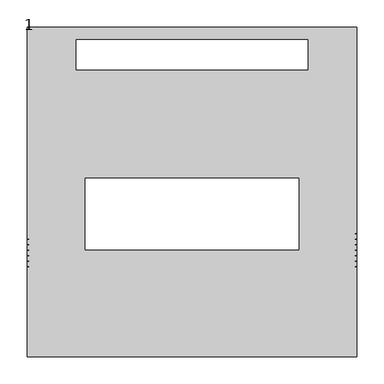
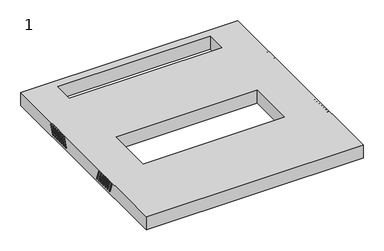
"""IFC4 building model written with IfcOpenShell, lengths in millimetres: proxy geometry, 1."""

from ifc_helpers import new_model, si_unit, frame, origin, place, context, project, spatial, polyline, circle_curve, source, transform, mapped, element, save
from ifc_brep_helpers import plane_surface, revolved_surface, advanced_brep


def proxy_1_868d94a2(model_context):
    return source(origin(), model_context, "Body", "AdvancedBrep", [
        advanced_brep(
        [(298.0, -135.8, 479.7479679), (298.0, -126.9074763, 455.3159597), (298.0, -123.1487058, 456.6840403), (298.0, -132.0412295, 481.1160484), (298.0, -125.8, 479.7479679), (298.0, -116.9074763, 455.3159597), (298.0, -113.1487058, 456.6840403), (298.0, -122.0412295, 481.1160484), (298.0, -115.8, 479.7479679), (298.0, -106.9074763, 455.3159597), (298.0, -103.1487058, 456.6840403), (298.0, -112.0412295, 481.1160484), (298.0, -105.8, 479.7479679), (298.0, -96.9074763, 455.3159597), (298.0, -93.1487058, 456.6840403), (298.0, -102.0412295, 481.1160484), (298.0, -95.8, 479.7479679), (298.0, -86.9074763, 455.3159597), (298.0, -83.1487058, 456.6840403), (298.0, -92.0412295, 481.1160484), (298.0, -85.8, 479.7479679), (298.0, -76.9074763, 455.3159597), (298.0, -73.1487058, 456.6840403), (298.0, -82.0412295, 481.1160484), (298.0, -75.8, 479.7479679), (298.0, -66.9074763, 455.3159597), (298.0, -63.1487058, 456.6840403), (298.0, -72.0412295, 481.1160484), (300.0, -132.0412295, 481.1160484), (300.0, -135.8, 479.7479679), (300.0, -123.1487058, 456.6840403), (300.0, -126.9074763, 455.3159597), (300.0, -122.0412295, 481.1160484), (300.0, -125.8, 479.7479679), (300.0, -113.1487058, 456.6840403), (300.0, -116.9074763, 455.3159597), (300.0, -112.0412295, 481.1160484), (300.0, -115.8, 479.7479679), (300.0, -103.1487058, 456.6840403), (300.0, -106.9074763, 455.3159597), (300.0, -102.0412295, 481.1160484), (300.0, -105.8, 479.7479679), (300.0, -93.1487058, 456.6840403), (300.0, -96.9074763, 455.3159597), (300.0, -92.0412295, 481.1160484), (300.0, -95.8, 479.7479679), (300.0, -83.1487058, 456.6840403), (300.0, -86.9074763, 455.3159597), (300.0, -82.0412295, 481.1160484), (300.0, -85.8, 479.7479679), (300.0, -73.1487058, 456.6840403), (300.0, -76.9074763, 455.3159597), (300.0, -72.0412295, 481.1160484), (300.0, -75.8, 479.7479679), (300.0, -63.1487058, 456.6840403), (300.0, -66.9074763, 455.3159597), (300.0, 300.0, 448.0), (300.0, -300.0, 448.0), (-300.0, -300.0, 448.0), (-300.0, 300.0, 448.0), (-211.0, 222.5, 448.0), (211.0, 222.5, 448.0), (211.0, 277.5, 448.0), (-211.0, 277.5, 448.0), (195.0, 25.0, 448.0), (-195.0, 25.0, 448.0), (-195.0, -105.0, 448.0), (195.0, -105.0, 448.0), (300.0, 300.0, 486.0), (-300.0, 300.0, 486.0), (-300.0, -300.0, 486.0), (300.0, -300.0, 486.0), (-211.0, 222.5, 486.0), (-211.0, 277.5, 486.0), (211.0, 277.5, 486.0), (211.0, 222.5, 486.0), (195.0, 25.0, 486.0), (195.0, -105.0, 486.0), (-195.0, -105.0, 486.0), (-195.0, 25.0, 486.0), (-300.0, -66.9074763, 455.3159597), (-300.0, -63.1487058, 456.6840403), (-300.0, -72.0412295, 481.1160484), (-300.0, -75.8, 479.7479679), (-300.0, -76.9074763, 455.3159597), (-300.0, -73.1487058, 456.6840403), (-300.0, -82.0412295, 481.1160484), (-300.0, -85.8, 479.7479679), (-300.0, -86.9074763, 455.3159597), (-300.0, -83.1487058, 456.6840403), (-300.0, -92.0412295, 481.1160484), (-300.0, -95.8, 479.7479679), (-300.0, -96.9074763, 455.3159597), (-300.0, -93.1487058, 456.6840403), (-300.0, -102.0412295, 481.1160484), (-300.0, -105.8, 479.7479679), (-300.0, -106.9074763, 455.3159597), (-300.0, -103.1487058, 456.6840403), (-300.0, -112.0412295, 481.1160484), (-300.0, -115.8, 479.7479679), (-300.0, -116.9074763, 455.3159597), (-300.0, -113.1487058, 456.6840403), (-300.0, -122.0412295, 481.1160484), (-300.0, -125.8, 479.7479679), (-300.0, -126.9074763, 455.3159597), (-300.0, -123.1487058, 456.6840403), (-300.0, -132.0412295, 481.1160484), (-300.0, -135.8, 479.7479679), (-300.0, 96.0, 479.7479679), (-300.0, 92.2412295, 481.1160484), (-300.0, 83.3487058, 456.6840403), (-300.0, 87.1074763, 455.3159597), (-300.0, 106.0, 479.7479679), (-300.0, 102.2412295, 481.1160484), (-300.0, 93.3487058, 456.6840403), (-300.0, 97.1074763, 455.3159597), (-300.0, 116.0, 479.7479679), (-300.0, 112.2412295, 481.1160484), (-300.0, 103.3487058, 456.6840403), (-300.0, 107.1074763, 455.3159597), (-300.0, 126.0, 479.7479679), (-300.0, 122.2412295, 481.1160484), (-300.0, 113.3487058, 456.6840403), (-300.0, 117.1074763, 455.3159597), (-300.0, 136.0, 479.7479679), (-300.0, 132.2412295, 481.1160484), (-300.0, 123.3487058, 456.6840403), (-300.0, 127.1074763, 455.3159597), (-300.0, 146.0, 479.7479679), (-300.0, 142.2412295, 481.1160484), (-300.0, 133.3487058, 456.6840403), (-300.0, 137.1074763, 455.3159597), (-300.0, 156.0, 479.7479679), (-300.0, 152.2412295, 481.1160484), (-300.0, 143.3487058, 456.6840403), (-300.0, 147.1074763, 455.3159597), (300.0, 152.2412295, 481.1160484), (300.0, 156.0, 479.7479679), (300.0, 147.1074763, 455.3159597), (300.0, 143.3487058, 456.6840403), (300.0, 142.2412295, 481.1160484), (300.0, 146.0, 479.7479679), (300.0, 137.1074763, 455.3159597), (300.0, 133.3487058, 456.6840403), (300.0, 132.2412295, 481.1160484), (300.0, 136.0, 479.7479679), (300.0, 127.1074763, 455.3159597), (300.0, 123.3487058, 456.6840403), (300.0, 122.2412295, 481.1160484), (300.0, 126.0, 479.7479679), (300.0, 117.1074763, 455.3159597), (300.0, 113.3487058, 456.6840403), (300.0, 112.2412295, 481.1160484), (300.0, 116.0, 479.7479679), (300.0, 107.1074763, 455.3159597), (300.0, 103.3487058, 456.6840403), (300.0, 102.2412295, 481.1160484), (300.0, 106.0, 479.7479679), (300.0, 97.1074763, 455.3159597), (300.0, 93.3487058, 456.6840403), (300.0, 92.2412295, 481.1160484), (300.0, 96.0, 479.7479679), (300.0, 87.1074763, 455.3159597), (300.0, 83.3487058, 456.6840403), (298.0, 156.0, 479.7479679), (298.0, 152.2412295, 481.1160484), (298.0, 143.3487058, 456.6840403), (298.0, 147.1074763, 455.3159597), (298.0, 146.0, 479.7479679), (298.0, 142.2412295, 481.1160484), (298.0, 133.3487058, 456.6840403), (298.0, 137.1074763, 455.3159597), (298.0, 136.0, 479.7479679), (298.0, 132.2412295, 481.1160484), (298.0, 123.3487058, 456.6840403), (298.0, 127.1074763, 455.3159597), (298.0, 126.0, 479.7479679), (298.0, 122.2412295, 481.1160484), (298.0, 113.3487058, 456.6840403), (298.0, 117.1074763, 455.3159597), (298.0, 116.0, 479.7479679), (298.0, 112.2412295, 481.1160484), (298.0, 103.3487058, 456.6840403), (298.0, 107.1074763, 455.3159597), (298.0, 106.0, 479.7479679), (298.0, 102.2412295, 481.1160484), (298.0, 93.3487058, 456.6840403), (298.0, 97.1074763, 455.3159597), (298.0, 96.0, 479.7479679), (298.0, 92.2412295, 481.1160484), (298.0, 83.3487058, 456.6840403), (298.0, 87.1074763, 455.3159597), (-298.0, -63.1487058, 456.6840403), (-298.0, -66.9074763, 455.3159597), (-298.0, -75.8, 479.7479679), (-298.0, -72.0412295, 481.1160484), (-298.0, -73.1487058, 456.6840403), (-298.0, -76.9074763, 455.3159597), (-298.0, -85.8, 479.7479679), (-298.0, -82.0412295, 481.1160484), (-298.0, -83.1487058, 456.6840403), (-298.0, -86.9074763, 455.3159597), (-298.0, -95.8, 479.7479679), (-298.0, -92.0412295, 481.1160484), (-298.0, -93.1487058, 456.6840403), (-298.0, -96.9074763, 455.3159597), (-298.0, -105.8, 479.7479679), (-298.0, -102.0412295, 481.1160484), (-298.0, -103.1487058, 456.6840403), (-298.0, -106.9074763, 455.3159597), (-298.0, -115.8, 479.7479679), (-298.0, -112.0412295, 481.1160484), (-298.0, -113.1487058, 456.6840403), (-298.0, -116.9074763, 455.3159597), (-298.0, -125.8, 479.7479679), (-298.0, -122.0412295, 481.1160484), (-298.0, -123.1487058, 456.6840403), (-298.0, -126.9074763, 455.3159597), (-298.0, -135.8, 479.7479679), (-298.0, -132.0412295, 481.1160484), (-298.0, 92.2412295, 481.1160484), (-298.0, 96.0, 479.7479679), (-298.0, 87.1074763, 455.3159597), (-298.0, 83.3487058, 456.6840403), (-298.0, 102.2412295, 481.1160484), (-298.0, 106.0, 479.7479679), (-298.0, 97.1074763, 455.3159597), (-298.0, 93.3487058, 456.6840403), (-298.0, 112.2412295, 481.1160484), (-298.0, 116.0, 479.7479679), (-298.0, 107.1074763, 455.3159597), (-298.0, 103.3487058, 456.6840403), (-298.0, 122.2412295, 481.1160484), (-298.0, 126.0, 479.7479679), (-298.0, 117.1074763, 455.3159597), (-298.0, 113.3487058, 456.6840403), (-298.0, 132.2412295, 481.1160484), (-298.0, 136.0, 479.7479679), (-298.0, 127.1074763, 455.3159597), (-298.0, 123.3487058, 456.6840403), (-298.0, 142.2412295, 481.1160484), (-298.0, 146.0, 479.7479679), (-298.0, 137.1074763, 455.3159597), (-298.0, 133.3487058, 456.6840403), (-298.0, 152.2412295, 481.1160484), (-298.0, 156.0, 479.7479679), (-298.0, 147.1074763, 455.3159597), (-298.0, 143.3487058, 456.6840403)],
        [
            (0, 1),
            (1, 2, circle_curve(frame((298.0, -125.028091, 456.0), z_axis=(1.0, 0.0, 0.0), x_axis=(0.0, -1.0, 0.0)), 2.0)),
            (2, 3),
            (3, 0, circle_curve(frame((298.0, -133.9206148, 480.4320081), z_axis=(1.0, 0.0, 0.0), x_axis=(0.0, -1.0, 0.0)), 2.0)),
            (4, 5),
            (5, 6, circle_curve(frame((298.0, -115.028091, 456.0), z_axis=(1.0, 0.0, 0.0), x_axis=(0.0, -1.0, 0.0)), 2.0)),
            (6, 7),
            (7, 4, circle_curve(frame((298.0, -123.9206148, 480.4320081), z_axis=(1.0, 0.0, 0.0), x_axis=(0.0, -1.0, 0.0)), 2.0)),
            (8, 9),
            (9, 10, circle_curve(frame((298.0, -105.028091, 456.0), z_axis=(1.0, 0.0, 0.0), x_axis=(0.0, -1.0, 0.0)), 2.0)),
            (10, 11),
            (11, 8, circle_curve(frame((298.0, -113.9206148, 480.4320081), z_axis=(1.0, 0.0, 0.0), x_axis=(0.0, -1.0, 0.0)), 2.0)),
            (12, 13),
            (13, 14, circle_curve(frame((298.0, -95.028091, 456.0), z_axis=(1.0, 0.0, 0.0), x_axis=(0.0, -1.0, 0.0)), 2.0)),
            (14, 15),
            (15, 12, circle_curve(frame((298.0, -103.9206148, 480.4320081), z_axis=(1.0, 0.0, 0.0), x_axis=(0.0, -1.0, 0.0)), 2.0)),
            (16, 17),
            (17, 18, circle_curve(frame((298.0, -85.028091, 456.0), z_axis=(1.0, 0.0, 0.0), x_axis=(0.0, -1.0, 0.0)), 2.0)),
            (18, 19),
            (19, 16, circle_curve(frame((298.0, -93.9206148, 480.4320081), z_axis=(1.0, 0.0, 0.0), x_axis=(0.0, -1.0, 0.0)), 2.0)),
            (20, 21),
            (21, 22, circle_curve(frame((298.0, -75.028091, 456.0), z_axis=(1.0, 0.0, 0.0), x_axis=(0.0, -1.0, 0.0)), 2.0)),
            (22, 23),
            (23, 20, circle_curve(frame((298.0, -83.9206148, 480.4320081), z_axis=(1.0, 0.0, 0.0), x_axis=(0.0, -1.0, 0.0)), 2.0)),
            (24, 25),
            (25, 26, circle_curve(frame((298.0, -65.028091, 456.0), z_axis=(1.0, 0.0, 0.0), x_axis=(0.0, -1.0, 0.0)), 2.0)),
            (26, 27),
            (27, 24, circle_curve(frame((298.0, -73.9206148, 480.4320081), z_axis=(1.0, 0.0, 0.0), x_axis=(0.0, -1.0, 0.0)), 2.0)),
            (3, 28),
            (28, 29, circle_curve(frame((300.0, -133.9206148, 480.4320081), z_axis=(1.0, 0.0, 0.0), x_axis=(0.0, -1.0, 0.0)), 2.0)),
            (29, 0),
            (2, 30),
            (30, 28),
            (1, 31),
            (31, 30, circle_curve(frame((300.0, -125.028091, 456.0), z_axis=(1.0, 0.0, 0.0), x_axis=(0.0, -1.0, 0.0)), 2.0)),
            (29, 31),
            (7, 32),
            (32, 33, circle_curve(frame((300.0, -123.9206148, 480.4320081), z_axis=(1.0, 0.0, 0.0), x_axis=(0.0, -1.0, 0.0)), 2.0)),
            (33, 4),
            (6, 34),
            (34, 32),
            (5, 35),
            (35, 34, circle_curve(frame((300.0, -115.028091, 456.0), z_axis=(1.0, 0.0, 0.0), x_axis=(0.0, -1.0, 0.0)), 2.0)),
            (33, 35),
            (11, 36),
            (36, 37, circle_curve(frame((300.0, -113.9206148, 480.4320081), z_axis=(1.0, 0.0, 0.0), x_axis=(0.0, -1.0, 0.0)), 2.0)),
            (37, 8),
            (10, 38),
            (38, 36),
            (9, 39),
            (39, 38, circle_curve(frame((300.0, -105.028091, 456.0), z_axis=(1.0, 0.0, 0.0), x_axis=(0.0, -1.0, 0.0)), 2.0)),
            (37, 39),
            (15, 40),
            (40, 41, circle_curve(frame((300.0, -103.9206148, 480.4320081), z_axis=(1.0, 0.0, 0.0), x_axis=(0.0, -1.0, 0.0)), 2.0)),
            (41, 12),
            (14, 42),
            (42, 40),
            (13, 43),
            (43, 42, circle_curve(frame((300.0, -95.028091, 456.0), z_axis=(1.0, 0.0, 0.0), x_axis=(0.0, -1.0, 0.0)), 2.0)),
            (41, 43),
            (19, 44),
            (44, 45, circle_curve(frame((300.0, -93.9206148, 480.4320081), z_axis=(1.0, 0.0, 0.0), x_axis=(0.0, -1.0, 0.0)), 2.0)),
            (45, 16),
            (18, 46),
            (46, 44),
            (17, 47),
            (47, 46, circle_curve(frame((300.0, -85.028091, 456.0), z_axis=(1.0, 0.0, 0.0), x_axis=(0.0, -1.0, 0.0)), 2.0)),
            (45, 47),
            (23, 48),
            (48, 49, circle_curve(frame((300.0, -83.9206148, 480.4320081), z_axis=(1.0, 0.0, 0.0), x_axis=(0.0, -1.0, 0.0)), 2.0)),
            (49, 20),
            (22, 50),
            (50, 48),
            (21, 51),
            (51, 50, circle_curve(frame((300.0, -75.028091, 456.0), z_axis=(1.0, 0.0, 0.0), x_axis=(0.0, -1.0, 0.0)), 2.0)),
            (49, 51),
            (27, 52),
            (52, 53, circle_curve(frame((300.0, -73.9206148, 480.4320081), z_axis=(1.0, 0.0, 0.0), x_axis=(0.0, -1.0, 0.0)), 2.0)),
            (53, 24),
            (26, 54),
            (54, 52),
            (25, 55),
            (55, 54, circle_curve(frame((300.0, -65.028091, 456.0), z_axis=(1.0, 0.0, 0.0), x_axis=(0.0, -1.0, 0.0)), 2.0)),
            (53, 55),
            (56, 57),
            (57, 58),
            (58, 59),
            (59, 56),
            (60, 61),
            (61, 62),
            (62, 63),
            (63, 60),
            (64, 65),
            (65, 66),
            (66, 67),
            (67, 64),
            (68, 69),
            (69, 70),
            (70, 71),
            (71, 68),
            (72, 73),
            (73, 74),
            (74, 75),
            (75, 72),
            (76, 77),
            (77, 78),
            (78, 79),
            (79, 76),
            (59, 69),
            (68, 56),
            (58, 70),
            (80, 81, circle_curve(frame((-300.0, -65.028091, 456.0), z_axis=(1.0, 0.0, 0.0), x_axis=(0.0, 1.0, 0.0)), 2.0)),
            (81, 82),
            (82, 83, circle_curve(frame((-300.0, -73.9206148, 480.4320081), z_axis=(1.0, 0.0, 0.0), x_axis=(0.0, 1.0, 0.0)), 2.0)),
            (83, 80),
            (84, 85, circle_curve(frame((-300.0, -75.028091, 456.0), z_axis=(1.0, 0.0, 0.0), x_axis=(0.0, 1.0, 0.0)), 2.0)),
            (85, 86),
            (86, 87, circle_curve(frame((-300.0, -83.9206148, 480.4320081), z_axis=(1.0, 0.0, 0.0), x_axis=(0.0, 1.0, 0.0)), 2.0)),
            (87, 84),
            (88, 89, circle_curve(frame((-300.0, -85.028091, 456.0), z_axis=(1.0, 0.0, 0.0), x_axis=(0.0, 1.0, 0.0)), 2.0)),
            (89, 90),
            (90, 91, circle_curve(frame((-300.0, -93.9206148, 480.4320081), z_axis=(1.0, 0.0, 0.0), x_axis=(0.0, 1.0, 0.0)), 2.0)),
            (91, 88),
            (92, 93, circle_curve(frame((-300.0, -95.028091, 456.0), z_axis=(1.0, 0.0, 0.0), x_axis=(0.0, 1.0, 0.0)), 2.0)),
            (93, 94),
            (94, 95, circle_curve(frame((-300.0, -103.9206148, 480.4320081), z_axis=(1.0, 0.0, 0.0), x_axis=(0.0, 1.0, 0.0)), 2.0)),
            (95, 92),
            (96, 97, circle_curve(frame((-300.0, -105.028091, 456.0), z_axis=(1.0, 0.0, 0.0), x_axis=(0.0, 1.0, 0.0)), 2.0)),
            (97, 98),
            (98, 99, circle_curve(frame((-300.0, -113.9206148, 480.4320081), z_axis=(1.0, 0.0, 0.0), x_axis=(0.0, 1.0, 0.0)), 2.0)),
            (99, 96),
            (100, 101, circle_curve(frame((-300.0, -115.028091, 456.0), z_axis=(1.0, 0.0, 0.0), x_axis=(0.0, 1.0, 0.0)), 2.0)),
            (101, 102),
            (102, 103, circle_curve(frame((-300.0, -123.9206148, 480.4320081), z_axis=(1.0, 0.0, 0.0), x_axis=(0.0, 1.0, 0.0)), 2.0)),
            (103, 100),
            (104, 105, circle_curve(frame((-300.0, -125.028091, 456.0), z_axis=(1.0, 0.0, 0.0), x_axis=(0.0, 1.0, 0.0)), 2.0)),
            (105, 106),
            (106, 107, circle_curve(frame((-300.0, -133.9206148, 480.4320081), z_axis=(1.0, 0.0, 0.0), x_axis=(0.0, 1.0, 0.0)), 2.0)),
            (107, 104),
            (108, 109, circle_curve(frame((-300.0, 94.1206148, 480.4320081), z_axis=(1.0, 0.0, 0.0), x_axis=(0.0, 1.0, 0.0)), 2.0)),
            (109, 110),
            (110, 111, circle_curve(frame((-300.0, 85.228091, 456.0), z_axis=(1.0, 0.0, 0.0), x_axis=(0.0, 1.0, 0.0)), 2.0)),
            (111, 108),
            (112, 113, circle_curve(frame((-300.0, 104.1206148, 480.4320081), z_axis=(1.0, 0.0, 0.0), x_axis=(0.0, 1.0, 0.0)), 2.0)),
            (113, 114),
            (114, 115, circle_curve(frame((-300.0, 95.228091, 456.0), z_axis=(1.0, 0.0, 0.0), x_axis=(0.0, 1.0, 0.0)), 2.0)),
            (115, 112),
            (116, 117, circle_curve(frame((-300.0, 114.1206148, 480.4320081), z_axis=(1.0, 0.0, 0.0), x_axis=(0.0, 1.0, 0.0)), 2.0)),
            (117, 118),
            (118, 119, circle_curve(frame((-300.0, 105.228091, 456.0), z_axis=(1.0, 0.0, 0.0), x_axis=(0.0, 1.0, 0.0)), 2.0)),
            (119, 116),
            (120, 121, circle_curve(frame((-300.0, 124.1206148, 480.4320081), z_axis=(1.0, 0.0, 0.0), x_axis=(0.0, 1.0, 0.0)), 2.0)),
            (121, 122),
            (122, 123, circle_curve(frame((-300.0, 115.228091, 456.0), z_axis=(1.0, 0.0, 0.0), x_axis=(0.0, 1.0, 0.0)), 2.0)),
            (123, 120),
            (124, 125, circle_curve(frame((-300.0, 134.1206148, 480.4320081), z_axis=(1.0, 0.0, 0.0), x_axis=(0.0, 1.0, 0.0)), 2.0)),
            (125, 126),
            (126, 127, circle_curve(frame((-300.0, 125.228091, 456.0), z_axis=(1.0, 0.0, 0.0), x_axis=(0.0, 1.0, 0.0)), 2.0)),
            (127, 124),
            (128, 129, circle_curve(frame((-300.0, 144.1206148, 480.4320081), z_axis=(1.0, 0.0, 0.0), x_axis=(0.0, 1.0, 0.0)), 2.0)),
            (129, 130),
            (130, 131, circle_curve(frame((-300.0, 135.228091, 456.0), z_axis=(1.0, 0.0, 0.0), x_axis=(0.0, 1.0, 0.0)), 2.0)),
            (131, 128),
            (132, 133, circle_curve(frame((-300.0, 154.1206148, 480.4320081), z_axis=(1.0, 0.0, 0.0), x_axis=(0.0, 1.0, 0.0)), 2.0)),
            (133, 134),
            (134, 135, circle_curve(frame((-300.0, 145.228091, 456.0), z_axis=(1.0, 0.0, 0.0), x_axis=(0.0, 1.0, 0.0)), 2.0)),
            (135, 132),
            (57, 71),
            (136, 137, circle_curve(frame((300.0, 154.1206148, 480.4320081), z_axis=(-1.0, 0.0, 0.0), x_axis=(0.0, 1.0, 0.0)), 2.0)),
            (137, 138),
            (138, 139, circle_curve(frame((300.0, 145.228091, 456.0), z_axis=(-1.0, 0.0, 0.0), x_axis=(0.0, 1.0, 0.0)), 2.0)),
            (139, 136),
            (140, 141, circle_curve(frame((300.0, 144.1206148, 480.4320081), z_axis=(-1.0, 0.0, 0.0), x_axis=(0.0, 1.0, 0.0)), 2.0)),
            (141, 142),
            (142, 143, circle_curve(frame((300.0, 135.228091, 456.0), z_axis=(-1.0, 0.0, 0.0), x_axis=(0.0, 1.0, 0.0)), 2.0)),
            (143, 140),
            (144, 145, circle_curve(frame((300.0, 134.1206148, 480.4320081), z_axis=(-1.0, 0.0, 0.0), x_axis=(0.0, 1.0, 0.0)), 2.0)),
            (145, 146),
            (146, 147, circle_curve(frame((300.0, 125.228091, 456.0), z_axis=(-1.0, 0.0, 0.0), x_axis=(0.0, 1.0, 0.0)), 2.0)),
            (147, 144),
            (148, 149, circle_curve(frame((300.0, 124.1206148, 480.4320081), z_axis=(-1.0, 0.0, 0.0), x_axis=(0.0, 1.0, 0.0)), 2.0)),
            (149, 150),
            (150, 151, circle_curve(frame((300.0, 115.228091, 456.0), z_axis=(-1.0, 0.0, 0.0), x_axis=(0.0, 1.0, 0.0)), 2.0)),
            (151, 148),
            (152, 153, circle_curve(frame((300.0, 114.1206148, 480.4320081), z_axis=(-1.0, 0.0, 0.0), x_axis=(0.0, 1.0, 0.0)), 2.0)),
            (153, 154),
            (154, 155, circle_curve(frame((300.0, 105.228091, 456.0), z_axis=(-1.0, 0.0, 0.0), x_axis=(0.0, 1.0, 0.0)), 2.0)),
            (155, 152),
            (156, 157, circle_curve(frame((300.0, 104.1206148, 480.4320081), z_axis=(-1.0, 0.0, 0.0), x_axis=(0.0, 1.0, 0.0)), 2.0)),
            (157, 158),
            (158, 159, circle_curve(frame((300.0, 95.228091, 456.0), z_axis=(-1.0, 0.0, 0.0), x_axis=(0.0, 1.0, 0.0)), 2.0)),
            (159, 156),
            (160, 161, circle_curve(frame((300.0, 94.1206148, 480.4320081), z_axis=(-1.0, 0.0, 0.0), x_axis=(0.0, 1.0, 0.0)), 2.0)),
            (161, 162),
            (162, 163, circle_curve(frame((300.0, 85.228091, 456.0), z_axis=(-1.0, 0.0, 0.0), x_axis=(0.0, 1.0, 0.0)), 2.0)),
            (163, 160),
            (63, 73),
            (72, 60),
            (62, 74),
            (61, 75),
            (67, 77),
            (76, 64),
            (66, 78),
            (65, 79),
            (164, 165, circle_curve(frame((298.0, 154.1206148, 480.4320081), z_axis=(1.0, 0.0, 0.0), x_axis=(0.0, 1.0, 0.0)), 2.0)),
            (165, 166),
            (166, 167, circle_curve(frame((298.0, 145.228091, 456.0), z_axis=(1.0, 0.0, 0.0), x_axis=(0.0, 1.0, 0.0)), 2.0)),
            (167, 164),
            (168, 169, circle_curve(frame((298.0, 144.1206148, 480.4320081), z_axis=(1.0, 0.0, 0.0), x_axis=(0.0, 1.0, 0.0)), 2.0)),
            (169, 170),
            (170, 171, circle_curve(frame((298.0, 135.228091, 456.0), z_axis=(1.0, 0.0, 0.0), x_axis=(0.0, 1.0, 0.0)), 2.0)),
            (171, 168),
            (172, 173, circle_curve(frame((298.0, 134.1206148, 480.4320081), z_axis=(1.0, 0.0, 0.0), x_axis=(0.0, 1.0, 0.0)), 2.0)),
            (173, 174),
            (174, 175, circle_curve(frame((298.0, 125.228091, 456.0), z_axis=(1.0, 0.0, 0.0), x_axis=(0.0, 1.0, 0.0)), 2.0)),
            (175, 172),
            (176, 177, circle_curve(frame((298.0, 124.1206148, 480.4320081), z_axis=(1.0, 0.0, 0.0), x_axis=(0.0, 1.0, 0.0)), 2.0)),
            (177, 178),
            (178, 179, circle_curve(frame((298.0, 115.228091, 456.0), z_axis=(1.0, 0.0, 0.0), x_axis=(0.0, 1.0, 0.0)), 2.0)),
            (179, 176),
            (180, 181, circle_curve(frame((298.0, 114.1206148, 480.4320081), z_axis=(1.0, 0.0, 0.0), x_axis=(0.0, 1.0, 0.0)), 2.0)),
            (181, 182),
            (182, 183, circle_curve(frame((298.0, 105.228091, 456.0), z_axis=(1.0, 0.0, 0.0), x_axis=(0.0, 1.0, 0.0)), 2.0)),
            (183, 180),
            (184, 185, circle_curve(frame((298.0, 104.1206148, 480.4320081), z_axis=(1.0, 0.0, 0.0), x_axis=(0.0, 1.0, 0.0)), 2.0)),
            (185, 186),
            (186, 187, circle_curve(frame((298.0, 95.228091, 456.0), z_axis=(1.0, 0.0, 0.0), x_axis=(0.0, 1.0, 0.0)), 2.0)),
            (187, 184),
            (188, 189, circle_curve(frame((298.0, 94.1206148, 480.4320081), z_axis=(1.0, 0.0, 0.0), x_axis=(0.0, 1.0, 0.0)), 2.0)),
            (189, 190),
            (190, 191, circle_curve(frame((298.0, 85.228091, 456.0), z_axis=(1.0, 0.0, 0.0), x_axis=(0.0, 1.0, 0.0)), 2.0)),
            (191, 188),
            (164, 137),
            (136, 165),
            (139, 166),
            (138, 167),
            (168, 141),
            (140, 169),
            (143, 170),
            (142, 171),
            (172, 145),
            (144, 173),
            (147, 174),
            (146, 175),
            (176, 149),
            (148, 177),
            (151, 178),
            (150, 179),
            (180, 153),
            (152, 181),
            (155, 182),
            (154, 183),
            (184, 157),
            (156, 185),
            (159, 186),
            (158, 187),
            (188, 161),
            (160, 189),
            (163, 190),
            (162, 191),
            (192, 193, circle_curve(frame((-298.0, -65.028091, 456.0), z_axis=(-1.0, 0.0, 0.0), x_axis=(0.0, 1.0, 0.0)), 2.0)),
            (193, 194),
            (194, 195, circle_curve(frame((-298.0, -73.9206148, 480.4320081), z_axis=(-1.0, 0.0, 0.0), x_axis=(0.0, 1.0, 0.0)), 2.0)),
            (195, 192),
            (196, 197, circle_curve(frame((-298.0, -75.028091, 456.0), z_axis=(-1.0, 0.0, 0.0), x_axis=(0.0, 1.0, 0.0)), 2.0)),
            (197, 198),
            (198, 199, circle_curve(frame((-298.0, -83.9206148, 480.4320081), z_axis=(-1.0, 0.0, 0.0), x_axis=(0.0, 1.0, 0.0)), 2.0)),
            (199, 196),
            (200, 201, circle_curve(frame((-298.0, -85.028091, 456.0), z_axis=(-1.0, 0.0, 0.0), x_axis=(0.0, 1.0, 0.0)), 2.0)),
            (201, 202),
            (202, 203, circle_curve(frame((-298.0, -93.9206148, 480.4320081), z_axis=(-1.0, 0.0, 0.0), x_axis=(0.0, 1.0, 0.0)), 2.0)),
            (203, 200),
            (204, 205, circle_curve(frame((-298.0, -95.028091, 456.0), z_axis=(-1.0, 0.0, 0.0), x_axis=(0.0, 1.0, 0.0)), 2.0)),
            (205, 206),
            (206, 207, circle_curve(frame((-298.0, -103.9206148, 480.4320081), z_axis=(-1.0, 0.0, 0.0), x_axis=(0.0, 1.0, 0.0)), 2.0)),
            (207, 204),
            (208, 209, circle_curve(frame((-298.0, -105.028091, 456.0), z_axis=(-1.0, 0.0, 0.0), x_axis=(0.0, 1.0, 0.0)), 2.0)),
            (209, 210),
            (210, 211, circle_curve(frame((-298.0, -113.9206148, 480.4320081), z_axis=(-1.0, 0.0, 0.0), x_axis=(0.0, 1.0, 0.0)), 2.0)),
            (211, 208),
            (212, 213, circle_curve(frame((-298.0, -115.028091, 456.0), z_axis=(-1.0, 0.0, 0.0), x_axis=(0.0, 1.0, 0.0)), 2.0)),
            (213, 214),
            (214, 215, circle_curve(frame((-298.0, -123.9206148, 480.4320081), z_axis=(-1.0, 0.0, 0.0), x_axis=(0.0, 1.0, 0.0)), 2.0)),
            (215, 212),
            (216, 217, circle_curve(frame((-298.0, -125.028091, 456.0), z_axis=(-1.0, 0.0, 0.0), x_axis=(0.0, 1.0, 0.0)), 2.0)),
            (217, 218),
            (218, 219, circle_curve(frame((-298.0, -133.9206148, 480.4320081), z_axis=(-1.0, 0.0, 0.0), x_axis=(0.0, 1.0, 0.0)), 2.0)),
            (219, 216),
            (192, 81),
            (80, 193),
            (83, 194),
            (82, 195),
            (196, 85),
            (84, 197),
            (87, 198),
            (86, 199),
            (200, 89),
            (88, 201),
            (91, 202),
            (90, 203),
            (204, 93),
            (92, 205),
            (95, 206),
            (94, 207),
            (208, 97),
            (96, 209),
            (99, 210),
            (98, 211),
            (212, 101),
            (100, 213),
            (103, 214),
            (102, 215),
            (216, 105),
            (104, 217),
            (107, 218),
            (106, 219),
            (220, 221, circle_curve(frame((-298.0, 94.1206148, 480.4320081), z_axis=(-1.0, 0.0, 0.0), x_axis=(0.0, 1.0, 0.0)), 2.0)),
            (221, 222),
            (222, 223, circle_curve(frame((-298.0, 85.228091, 456.0), z_axis=(-1.0, 0.0, 0.0), x_axis=(0.0, 1.0, 0.0)), 2.0)),
            (223, 220),
            (224, 225, circle_curve(frame((-298.0, 104.1206148, 480.4320081), z_axis=(-1.0, 0.0, 0.0), x_axis=(0.0, 1.0, 0.0)), 2.0)),
            (225, 226),
            (226, 227, circle_curve(frame((-298.0, 95.228091, 456.0), z_axis=(-1.0, 0.0, 0.0), x_axis=(0.0, 1.0, 0.0)), 2.0)),
            (227, 224),
            (228, 229, circle_curve(frame((-298.0, 114.1206148, 480.4320081), z_axis=(-1.0, 0.0, 0.0), x_axis=(0.0, 1.0, 0.0)), 2.0)),
            (229, 230),
            (230, 231, circle_curve(frame((-298.0, 105.228091, 456.0), z_axis=(-1.0, 0.0, 0.0), x_axis=(0.0, 1.0, 0.0)), 2.0)),
            (231, 228),
            (232, 233, circle_curve(frame((-298.0, 124.1206148, 480.4320081), z_axis=(-1.0, 0.0, 0.0), x_axis=(0.0, 1.0, 0.0)), 2.0)),
            (233, 234),
            (234, 235, circle_curve(frame((-298.0, 115.228091, 456.0), z_axis=(-1.0, 0.0, 0.0), x_axis=(0.0, 1.0, 0.0)), 2.0)),
            (235, 232),
            (236, 237, circle_curve(frame((-298.0, 134.1206148, 480.4320081), z_axis=(-1.0, 0.0, 0.0), x_axis=(0.0, 1.0, 0.0)), 2.0)),
            (237, 238),
            (238, 239, circle_curve(frame((-298.0, 125.228091, 456.0), z_axis=(-1.0, 0.0, 0.0), x_axis=(0.0, 1.0, 0.0)), 2.0)),
            (239, 236),
            (240, 241, circle_curve(frame((-298.0, 144.1206148, 480.4320081), z_axis=(-1.0, 0.0, 0.0), x_axis=(0.0, 1.0, 0.0)), 2.0)),
            (241, 242),
            (242, 243, circle_curve(frame((-298.0, 135.228091, 456.0), z_axis=(-1.0, 0.0, 0.0), x_axis=(0.0, 1.0, 0.0)), 2.0)),
            (243, 240),
            (244, 245, circle_curve(frame((-298.0, 154.1206148, 480.4320081), z_axis=(-1.0, 0.0, 0.0), x_axis=(0.0, 1.0, 0.0)), 2.0)),
            (245, 246),
            (246, 247, circle_curve(frame((-298.0, 145.228091, 456.0), z_axis=(-1.0, 0.0, 0.0), x_axis=(0.0, 1.0, 0.0)), 2.0)),
            (247, 244),
            (220, 109),
            (108, 221),
            (111, 222),
            (110, 223),
            (224, 113),
            (112, 225),
            (115, 226),
            (114, 227),
            (228, 117),
            (116, 229),
            (119, 230),
            (118, 231),
            (232, 121),
            (120, 233),
            (123, 234),
            (122, 235),
            (236, 125),
            (124, 237),
            (127, 238),
            (126, 239),
            (240, 129),
            (128, 241),
            (131, 242),
            (130, 243),
            (244, 133),
            (132, 245),
            (135, 246),
            (134, 247),
        ],
        [
            plane_surface(frame((298.0, -126.9074763, 455.3159597), z_axis=(1.0000000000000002, 0.0, 0.0), x_axis=(0.0, -0.3420201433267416, 0.939692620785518))),
            revolved_surface(polyline([(300.0, -135.9206148, 480.4320081), (298.0, -135.9206148, 480.4320081)]), (298.0, -133.9206148, 480.4320081), (1.0, 0.0, 0.0)),
            plane_surface(frame((300.0, -123.1487058, 456.6840403), z_axis=(0.0, -0.939692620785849, -0.34202014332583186), x_axis=(-1.0, 0.0, 0.0))),
            revolved_surface(polyline([(300.0, -127.028091, 456.0), (298.0, -127.028091, 456.0)]), (298.0, -125.028091, 456.0), (1.0, 0.0, 0.0)),
            plane_surface(frame((300.0, -135.8, 479.7479679), z_axis=(0.0, 0.939692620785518, 0.3420201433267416), x_axis=(-1.0, 0.0, 0.0))),
            revolved_surface(polyline([(300.0, -125.9206148, 480.4320081), (298.0, -125.9206148, 480.4320081)]), (300.0, -123.9206148, 480.4320081), (1.0, 0.0, 0.0)),
            plane_surface(frame((300.0, -113.1487058, 456.6840403), z_axis=(0.0, -0.9396926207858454, -0.3420201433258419), x_axis=(-1.0, 0.0, 0.0))),
            revolved_surface(polyline([(300.0, -117.028091, 456.0), (298.0, -117.028091, 456.0)]), (300.0, -115.028091, 456.0), (1.0, 0.0, 0.0)),
            plane_surface(frame((300.0, -125.8, 479.7479679), z_axis=(0.0, 0.9396926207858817, 0.3420201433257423), x_axis=(-1.0, 0.0, 0.0))),
            revolved_surface(polyline([(300.0, -115.9206148, 480.4320081), (298.0, -115.9206148, 480.4320081)]), (300.0, -113.9206148, 480.4320081), (1.0, 0.0, 0.0)),
            plane_surface(frame((300.0, -103.1487058, 456.6840403), z_axis=(0.0, -0.9396926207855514, -0.3420201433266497), x_axis=(-1.0, 0.0, 0.0))),
            revolved_surface(polyline([(300.0, -107.028091, 456.0), (298.0, -107.028091, 456.0)]), (300.0, -105.028091, 456.0), (1.0, 0.0, 0.0)),
            plane_surface(frame((300.0, -115.8, 479.7479679), z_axis=(0.0, 0.93969262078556, 0.34202014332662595), x_axis=(-1.0, 0.0, 0.0))),
            revolved_surface(polyline([(300.0, -105.9206148, 480.4320081), (298.0, -105.9206148, 480.4320081)]), (300.0, -103.9206148, 480.4320081), (1.0, 0.0, 0.0)),
            plane_surface(frame((300.0, -93.1487058, 456.6840403), z_axis=(0.0, -0.9396926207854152, -0.3420201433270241), x_axis=(-1.0, 0.0, 0.0))),
            revolved_surface(polyline([(300.0, -97.028091, 456.0), (298.0, -97.028091, 456.0)]), (300.0, -95.028091, 456.0), (1.0, 0.0, 0.0)),
            plane_surface(frame((300.0, -105.8, 479.7479679), z_axis=(0.0, 0.9396926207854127, 0.3420201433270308), x_axis=(-1.0, 0.0, 0.0))),
            revolved_surface(polyline([(300.0, -95.9206148, 480.4320081), (298.0, -95.9206148, 480.4320081)]), (300.0, -93.9206148, 480.4320081), (1.0, 0.0, 0.0)),
            plane_surface(frame((300.0, -83.1487058, 456.6840403), z_axis=(0.0, -0.9396926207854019, -0.3420201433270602), x_axis=(-1.0, 0.0, 0.0))),
            revolved_surface(polyline([(300.0, -87.028091, 456.0), (298.0, -87.028091, 456.0)]), (300.0, -85.028091, 456.0), (1.0, 0.0, 0.0)),
            plane_surface(frame((300.0, -95.8, 479.7479679), z_axis=(0.0, 0.9396926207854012, 0.3420201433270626), x_axis=(-1.0, 0.0, 0.0))),
            revolved_surface(polyline([(300.0, -85.9206148, 480.4320081), (298.0, -85.9206148, 480.4320081)]), (300.0, -83.9206148, 480.4320081), (1.0, 0.0, 0.0)),
            plane_surface(frame((300.0, -73.1487058, 456.6840403), z_axis=(0.0, -0.9396926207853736, -0.3420201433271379), x_axis=(-1.0, 0.0, 0.0))),
            revolved_surface(polyline([(300.0, -77.028091, 456.0), (298.0, -77.028091, 456.0)]), (300.0, -75.028091, 456.0), (1.0, 0.0, 0.0)),
            plane_surface(frame((300.0, -85.8, 479.7479679), z_axis=(0.0, 0.9396926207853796, 0.3420201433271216), x_axis=(-1.0, 0.0, 0.0))),
            revolved_surface(polyline([(300.0, -75.9206148, 480.4320081), (298.0, -75.9206148, 480.4320081)]), (300.0, -73.9206148, 480.4320081), (1.0, 0.0, 0.0)),
            plane_surface(frame((300.0, -63.1487058, 456.6840403), z_axis=(0.0, -0.9396926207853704, -0.3420201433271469), x_axis=(-1.0, 0.0, 0.0))),
            revolved_surface(polyline([(300.0, -67.028091, 456.0), (298.0, -67.028091, 456.0)]), (300.0, -65.028091, 456.0), (1.0, 0.0, 0.0)),
            plane_surface(frame((300.0, -75.8, 479.7479679), z_axis=(0.0, 0.9396926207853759, 0.3420201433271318), x_axis=(-1.0, 0.0, 0.0))),
            plane_surface(frame((-300.0, 300.0, 448.0), z_axis=(0.0, 0.0, -1.0), x_axis=(1.0, 0.0, 0.0))),
            plane_surface(frame((-300.0, 300.0, 486.0), z_axis=(0.0, 0.0, 1.0), x_axis=(-1.0, 0.0, 0.0))),
            plane_surface(frame((300.0, 300.0, 486.0), z_axis=(0.0, 1.0, 0.0), x_axis=(0.0, 0.0, -1.0))),
            plane_surface(frame((-300.0, 300.0, 486.0), z_axis=(-1.0, 0.0, 0.0), x_axis=(0.0, 0.0, -1.0))),
            plane_surface(frame((-300.0, -300.0, 486.0), z_axis=(0.0, -1.0, 0.0), x_axis=(0.0, 0.0, -1.0))),
            plane_surface(frame((300.0, -300.0, 486.0), z_axis=(1.0, 0.0, 0.0), x_axis=(0.0, 0.0, -1.0))),
            plane_surface(frame((-211.0, 222.5, 486.0), z_axis=(1.0, 0.0, 0.0), x_axis=(0.0, 0.0, -1.0))),
            plane_surface(frame((-211.0, 277.5, 486.0), z_axis=(0.0, -1.0, 0.0), x_axis=(0.0, 0.0, -1.0))),
            plane_surface(frame((211.0, 277.5, 486.0), z_axis=(-1.0, 0.0, 0.0), x_axis=(0.0, 0.0, -1.0))),
            plane_surface(frame((211.0, 222.5, 486.0), z_axis=(0.0, 1.0, 0.0), x_axis=(0.0, 0.0, -1.0))),
            plane_surface(frame((195.0, 25.0, 486.0), z_axis=(-1.0, 0.0, 0.0), x_axis=(0.0, 0.0, -1.0))),
            plane_surface(frame((195.0, -105.0, 486.0), z_axis=(0.0, 1.0, 0.0), x_axis=(0.0, 0.0, -1.0))),
            plane_surface(frame((-195.0, -105.0, 486.0), z_axis=(1.0, 0.0, 0.0), x_axis=(0.0, 0.0, -1.0))),
            plane_surface(frame((-195.0, 25.0, 486.0), z_axis=(0.0, -1.0, 0.0), x_axis=(0.0, 0.0, -1.0))),
            plane_surface(frame((298.0, 156.1206148, 480.4320081), z_axis=(1.0, 0.0, 0.0), x_axis=(0.0, 0.0, -1.0))),
            revolved_surface(polyline([(300.0, 156.1206148, 480.4320081), (298.0, 156.1206148, 480.4320081)]), (298.0, 154.1206148, 480.4320081), (1.0, 0.0, 0.0)),
            plane_surface(frame((300.0, 152.2412295, 481.1160484), z_axis=(0.0, 0.9396926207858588, -0.3420201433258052), x_axis=(-1.0, 0.0, 0.0))),
            revolved_surface(polyline([(300.0, 147.228091, 456.0), (298.0, 147.228091, 456.0)]), (298.0, 145.228091, 456.0), (1.0, 0.0, 0.0)),
            plane_surface(frame((300.0, 147.1074763, 455.3159597), z_axis=(0.0, -0.9396926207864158, 0.3420201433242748), x_axis=(-1.0, 0.0, 0.0))),
            revolved_surface(polyline([(300.0, 146.1206148, 480.4320081), (298.0, 146.1206148, 480.4320081)]), (300.0, 144.1206148, 480.4320081), (1.0, 0.0, 0.0)),
            plane_surface(frame((300.0, 142.2412295, 481.1160484), z_axis=(0.0, 0.9396926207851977, -0.3420201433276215), x_axis=(-1.0, 0.0, 0.0))),
            revolved_surface(polyline([(300.0, 137.228091, 456.0), (298.0, 137.228091, 456.0)]), (300.0, 135.228091, 456.0), (1.0, 0.0, 0.0)),
            plane_surface(frame((300.0, 137.1074763, 455.3159597), z_axis=(0.0, -0.9396926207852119, 0.34202014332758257), x_axis=(-1.0, 0.0, 0.0))),
            revolved_surface(polyline([(300.0, 136.1206148, 480.4320081), (298.0, 136.1206148, 480.4320081)]), (300.0, 134.1206148, 480.4320081), (1.0, 0.0, 0.0)),
            plane_surface(frame((300.0, 132.2412295, 481.1160484), z_axis=(0.0, 0.9396926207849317, -0.34202014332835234), x_axis=(-1.0, 0.0, 0.0))),
            revolved_surface(polyline([(300.0, 127.228091, 456.0), (298.0, 127.228091, 456.0)]), (300.0, 125.228091, 456.0), (1.0, 0.0, 0.0)),
            plane_surface(frame((300.0, 127.1074763, 455.3159597), z_axis=(0.0, -0.9396926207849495, 0.3420201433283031), x_axis=(-1.0, 0.0, 0.0))),
            revolved_surface(polyline([(300.0, 126.1206148, 480.4320081), (298.0, 126.1206148, 480.4320081)]), (300.0, 124.1206148, 480.4320081), (1.0, 0.0, 0.0)),
            plane_surface(frame((300.0, 122.2412295, 481.1160484), z_axis=(0.0, 0.9396926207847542, -0.34202014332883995), x_axis=(-1.0, 0.0, 0.0))),
            revolved_surface(polyline([(300.0, 117.228091, 456.0), (298.0, 117.228091, 456.0)]), (300.0, 115.228091, 456.0), (1.0, 0.0, 0.0)),
            plane_surface(frame((300.0, 117.1074763, 455.3159597), z_axis=(0.0, -0.9396926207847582, 0.342020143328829), x_axis=(-1.0, 0.0, 0.0))),
            revolved_surface(polyline([(300.0, 116.1206148, 480.4320081), (298.0, 116.1206148, 480.4320081)]), (300.0, 114.1206148, 480.4320081), (1.0, 0.0, 0.0)),
            plane_surface(frame((300.0, 112.2412295, 481.1160484), z_axis=(0.0, 0.9396926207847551, -0.34202014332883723), x_axis=(-1.0, 0.0, 0.0))),
            revolved_surface(polyline([(300.0, 107.228091, 456.0), (298.0, 107.228091, 456.0)]), (300.0, 105.228091, 456.0), (1.0, 0.0, 0.0)),
            plane_surface(frame((300.0, 107.1074763, 455.3159597), z_axis=(0.0, -0.9396926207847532, 0.34202014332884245), x_axis=(-1.0, 0.0, 0.0))),
            revolved_surface(polyline([(300.0, 106.1206148, 480.4320081), (298.0, 106.1206148, 480.4320081)]), (300.0, 104.1206148, 480.4320081), (1.0, 0.0, 0.0)),
            plane_surface(frame((300.0, 102.2412295, 481.1160484), z_axis=(0.0, 0.9396926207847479, -0.3420201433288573), x_axis=(-1.0, 0.0, 0.0))),
            revolved_surface(polyline([(300.0, 97.228091, 456.0), (298.0, 97.228091, 456.0)]), (300.0, 95.228091, 456.0), (1.0, 0.0, 0.0)),
            plane_surface(frame((300.0, 97.1074763, 455.3159597), z_axis=(0.0, -0.939692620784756, 0.342020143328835), x_axis=(-1.0, 0.0, 0.0))),
            revolved_surface(polyline([(300.0, 96.1206148, 480.4320081), (298.0, 96.1206148, 480.4320081)]), (300.0, 94.1206148, 480.4320081), (1.0, 0.0, 0.0)),
            plane_surface(frame((300.0, 92.2412295, 481.1160484), z_axis=(0.0, 0.9396926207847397, -0.3420201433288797), x_axis=(-1.0, 0.0, 0.0))),
            revolved_surface(polyline([(300.0, 87.228091, 456.0), (298.0, 87.228091, 456.0)]), (300.0, 85.228091, 456.0), (1.0, 0.0, 0.0)),
            plane_surface(frame((300.0, 87.1074763, 455.3159597), z_axis=(0.0, -0.9396926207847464, 0.3420201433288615), x_axis=(-1.0, 0.0, 0.0))),
            plane_surface(frame((-298.0, -72.0412295, 481.1160484), z_axis=(-1.0, 0.0, 0.0), x_axis=(0.0, -0.34202014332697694, 0.9396926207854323))),
            revolved_surface(polyline([(-298.0, -63.028091, 456.0), (-300.0, -63.028091, 456.0)]), (-300.0, -65.028091, 456.0), (1.0, 0.0, 0.0)),
            plane_surface(frame((-298.0, -75.8, 479.7479679), z_axis=(0.0, 0.9396926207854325, 0.3420201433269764), x_axis=(-1.0, 0.0, 0.0))),
            revolved_surface(polyline([(-298.0, -71.9206148, 480.4320081), (-300.0, -71.9206148, 480.4320081)]), (-300.0, -73.9206148, 480.4320081), (1.0, 0.0, 0.0)),
            plane_surface(frame((-298.0, -63.1487058, 456.6840403), z_axis=(0.0, -0.9396926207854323, -0.34202014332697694), x_axis=(-1.0, 0.0, 0.0))),
            revolved_surface(polyline([(-298.0, -73.028091, 456.0), (-300.0, -73.028091, 456.0)]), (-300.0, -75.028091, 456.0), (1.0, 0.0, 0.0)),
            plane_surface(frame((-298.0, -85.8, 479.7479679), z_axis=(0.0, 0.9396926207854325, 0.34202014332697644), x_axis=(-1.0, 0.0, 0.0))),
            revolved_surface(polyline([(-298.0, -81.9206148, 480.4320081), (-300.0, -81.9206148, 480.4320081)]), (-300.0, -83.9206148, 480.4320081), (1.0, 0.0, 0.0)),
            plane_surface(frame((-298.0, -73.1487058, 456.6840403), z_axis=(0.0, -0.9396926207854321, -0.34202014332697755), x_axis=(-1.0, 0.0, 0.0))),
            revolved_surface(polyline([(-298.0, -83.028091, 456.0), (-300.0, -83.028091, 456.0)]), (-300.0, -85.028091, 456.0), (1.0, 0.0, 0.0)),
            plane_surface(frame((-298.0, -95.8, 479.7479679), z_axis=(0.0, 0.9396926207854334, 0.34202014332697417), x_axis=(-1.0, 0.0, 0.0))),
            revolved_surface(polyline([(-298.0, -91.9206148, 480.4320081), (-300.0, -91.9206148, 480.4320081)]), (-300.0, -93.9206148, 480.4320081), (1.0, 0.0, 0.0)),
            plane_surface(frame((-298.0, -83.1487058, 456.6840403), z_axis=(0.0, -0.9396926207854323, -0.342020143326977), x_axis=(-1.0, 0.0, 0.0))),
            revolved_surface(polyline([(-298.0, -93.028091, 456.0), (-300.0, -93.028091, 456.0)]), (-300.0, -95.028091, 456.0), (1.0, 0.0, 0.0)),
            plane_surface(frame((-298.0, -105.8, 479.7479679), z_axis=(0.0, 0.9396926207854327, 0.34202014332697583), x_axis=(-1.0, 0.0, 0.0))),
            revolved_surface(polyline([(-298.0, -101.9206148, 480.4320081), (-300.0, -101.9206148, 480.4320081)]), (-300.0, -103.9206148, 480.4320081), (1.0, 0.0, 0.0)),
            plane_surface(frame((-298.0, -93.1487058, 456.6840403), z_axis=(0.0, -0.9396926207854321, -0.34202014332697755), x_axis=(-1.0, 0.0, 0.0))),
            revolved_surface(polyline([(-298.0, -103.028091, 456.0), (-300.0, -103.028091, 456.0)]), (-300.0, -105.028091, 456.0), (1.0, 0.0, 0.0)),
            plane_surface(frame((-298.0, -115.8, 479.7479679), z_axis=(0.0, 0.9396926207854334, 0.3420201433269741), x_axis=(-1.0, 0.0, 0.0))),
            revolved_surface(polyline([(-298.0, -111.9206148, 480.4320081), (-300.0, -111.9206148, 480.4320081)]), (-300.0, -113.9206148, 480.4320081), (1.0, 0.0, 0.0)),
            plane_surface(frame((-298.0, -103.1487058, 456.6840403), z_axis=(0.0, -0.9396926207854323, -0.34202014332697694), x_axis=(-1.0, 0.0, 0.0))),
            revolved_surface(polyline([(-298.0, -113.028091, 456.0), (-300.0, -113.028091, 456.0)]), (-300.0, -115.028091, 456.0), (1.0, 0.0, 0.0)),
            plane_surface(frame((-298.0, -125.8, 479.7479679), z_axis=(0.0, 0.9396926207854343, 0.3420201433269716), x_axis=(-1.0, 0.0, 0.0))),
            revolved_surface(polyline([(-298.0, -121.9206148, 480.4320081), (-300.0, -121.9206148, 480.4320081)]), (-300.0, -123.9206148, 480.4320081), (1.0, 0.0, 0.0)),
            plane_surface(frame((-298.0, -113.1487058, 456.6840403), z_axis=(0.0, -0.9396926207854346, -0.34202014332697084), x_axis=(-1.0, 0.0, 0.0))),
            revolved_surface(polyline([(-298.0, -123.028091, 456.0), (-300.0, -123.028091, 456.0)]), (-300.0, -125.028091, 456.0), (1.0, 0.0, 0.0)),
            plane_surface(frame((-298.0, -135.8, 479.7479679), z_axis=(0.0, 0.9396926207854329, 0.34202014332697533), x_axis=(-1.0, 0.0, 0.0))),
            revolved_surface(polyline([(-298.0, -131.9206148, 480.4320081), (-300.0, -131.9206148, 480.4320081)]), (-300.0, -133.9206148, 480.4320081), (1.0, 0.0, 0.0)),
            plane_surface(frame((-298.0, -123.1487058, 456.6840403), z_axis=(0.0, -0.9396926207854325, -0.34202014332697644), x_axis=(-1.0, 0.0, 0.0))),
            plane_surface(frame((-298.0, 83.3487058, 456.6840403), z_axis=(-1.0, 0.0, 0.0), x_axis=(0.0, -0.34202014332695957, -0.9396926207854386))),
            revolved_surface(polyline([(-298.0, 96.1206148, 480.4320081), (-300.0, 96.1206148, 480.4320081)]), (-300.0, 94.1206148, 480.4320081), (1.0, 0.0, 0.0)),
            plane_surface(frame((-298.0, 87.1074763, 455.3159597), z_axis=(0.0, -0.9396926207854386, 0.34202014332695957), x_axis=(-1.0, 0.0, 0.0))),
            revolved_surface(polyline([(-298.0, 87.228091, 456.0), (-300.0, 87.228091, 456.0)]), (-300.0, 85.228091, 456.0), (1.0, 0.0, 0.0)),
            plane_surface(frame((-298.0, 92.2412295, 481.1160484), z_axis=(0.0, 0.9396926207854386, -0.34202014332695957), x_axis=(-1.0, 0.0, 0.0))),
            revolved_surface(polyline([(-298.0, 106.1206148, 480.4320081), (-300.0, 106.1206148, 480.4320081)]), (-300.0, 104.1206148, 480.4320081), (1.0, 0.0, 0.0)),
            plane_surface(frame((-298.0, 97.1074763, 455.3159597), z_axis=(0.0, -0.9396926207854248, 0.3420201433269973), x_axis=(-1.0, 0.0, 0.0))),
            revolved_surface(polyline([(-298.0, 97.228091, 456.0), (-300.0, 97.228091, 456.0)]), (-300.0, 95.228091, 456.0), (1.0, 0.0, 0.0)),
            plane_surface(frame((-298.0, 102.2412295, 481.1160484), z_axis=(0.0, 0.9396926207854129, -0.34202014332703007), x_axis=(-1.0, 0.0, 0.0))),
            revolved_surface(polyline([(-298.0, 116.1206148, 480.4320081), (-300.0, 116.1206148, 480.4320081)]), (-300.0, 114.1206148, 480.4320081), (1.0, 0.0, 0.0)),
            plane_surface(frame((-298.0, 107.1074763, 455.3159597), z_axis=(0.0, -0.9396926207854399, 0.3420201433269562), x_axis=(-1.0, 0.0, 0.0))),
            revolved_surface(polyline([(-298.0, 107.228091, 456.0), (-300.0, 107.228091, 456.0)]), (-300.0, 105.228091, 456.0), (1.0, 0.0, 0.0)),
            plane_surface(frame((-298.0, 112.2412295, 481.1160484), z_axis=(0.0, 0.9396926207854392, -0.34202014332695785), x_axis=(-1.0, 0.0, 0.0))),
            revolved_surface(polyline([(-298.0, 126.1206148, 480.4320081), (-300.0, 126.1206148, 480.4320081)]), (-300.0, 124.1206148, 480.4320081), (1.0, 0.0, 0.0)),
            plane_surface(frame((-298.0, 117.1074763, 455.3159597), z_axis=(0.0, -0.9396926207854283, 0.34202014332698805), x_axis=(-1.0, 0.0, 0.0))),
            revolved_surface(polyline([(-298.0, 117.228091, 456.0), (-300.0, 117.228091, 456.0)]), (-300.0, 115.228091, 456.0), (1.0, 0.0, 0.0)),
            plane_surface(frame((-298.0, 122.2412295, 481.1160484), z_axis=(0.0, 0.9396926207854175, -0.3420201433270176), x_axis=(-1.0, 0.0, 0.0))),
            revolved_surface(polyline([(-298.0, 136.1206148, 480.4320081), (-300.0, 136.1206148, 480.4320081)]), (-300.0, 134.1206148, 480.4320081), (1.0, 0.0, 0.0)),
            plane_surface(frame((-298.0, 127.1074763, 455.3159597), z_axis=(0.0, -0.939692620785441, 0.342020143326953), x_axis=(-1.0, 0.0, 0.0))),
            revolved_surface(polyline([(-298.0, 127.228091, 456.0), (-300.0, 127.228091, 456.0)]), (-300.0, 125.228091, 456.0), (1.0, 0.0, 0.0)),
            plane_surface(frame((-298.0, 132.2412295, 481.1160484), z_axis=(0.0, 0.9396926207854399, -0.34202014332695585), x_axis=(-1.0, 0.0, 0.0))),
            revolved_surface(polyline([(-298.0, 146.1206148, 480.4320081), (-300.0, 146.1206148, 480.4320081)]), (-300.0, 144.1206148, 480.4320081), (1.0, 0.0, 0.0)),
            plane_surface(frame((-298.0, 137.1074763, 455.3159597), z_axis=(0.0, -0.9396926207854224, 0.34202014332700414), x_axis=(-1.0, 0.0, 0.0))),
            revolved_surface(polyline([(-298.0, 137.228091, 456.0), (-300.0, 137.228091, 456.0)]), (-300.0, 135.228091, 456.0), (1.0, 0.0, 0.0)),
            plane_surface(frame((-298.0, 142.2412295, 481.1160484), z_axis=(0.0, 0.9396926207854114, -0.34202014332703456), x_axis=(-1.0, 0.0, 0.0))),
            revolved_surface(polyline([(-298.0, 156.1206148, 480.4320081), (-300.0, 156.1206148, 480.4320081)]), (-300.0, 154.1206148, 480.4320081), (1.0, 0.0, 0.0)),
            plane_surface(frame((-298.0, 147.1074763, 455.3159597), z_axis=(0.0, -0.9396926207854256, 0.3420201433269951), x_axis=(-1.0, 0.0, 0.0))),
            revolved_surface(polyline([(-298.0, 147.228091, 456.0), (-300.0, 147.228091, 456.0)]), (-300.0, 145.228091, 456.0), (1.0, 0.0, 0.0)),
            plane_surface(frame((-298.0, 152.2412295, 481.1160484), z_axis=(0.0, 0.9396926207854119, -0.34202014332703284), x_axis=(-1.0, 0.0, 0.0))),
        ],
        [
            (0, [[1, 2, 3, 4]]),
            (0, [[5, 6, 7, 8]]),
            (0, [[9, 10, 11, 12]]),
            (0, [[13, 14, 15, 16]]),
            (0, [[17, 18, 19, 20]]),
            (0, [[21, 22, 23, 24]]),
            (0, [[25, 26, 27, 28]]),
            (1, [[-4, 29, 30, 31]]),
            (2, [[-3, 32, 33, -29]]),
            (3, [[-2, 34, 35, -32]]),
            (4, [[-1, -31, 36, -34]]),
            (5, [[-8, 37, 38, 39]]),
            (6, [[-7, 40, 41, -37]]),
            (7, [[-6, 42, 43, -40]]),
            (8, [[-5, -39, 44, -42]]),
            (9, [[-12, 45, 46, 47]]),
            (10, [[-11, 48, 49, -45]]),
            (11, [[-10, 50, 51, -48]]),
            (12, [[-9, -47, 52, -50]]),
            (13, [[-16, 53, 54, 55]]),
            (14, [[-15, 56, 57, -53]]),
            (15, [[-14, 58, 59, -56]]),
            (16, [[-13, -55, 60, -58]]),
            (17, [[-20, 61, 62, 63]]),
            (18, [[-19, 64, 65, -61]]),
            (19, [[-18, 66, 67, -64]]),
            (20, [[-17, -63, 68, -66]]),
            (21, [[-24, 69, 70, 71]]),
            (22, [[-23, 72, 73, -69]]),
            (23, [[-22, 74, 75, -72]]),
            (24, [[-21, -71, 76, -74]]),
            (25, [[-28, 77, 78, 79]]),
            (26, [[-27, 80, 81, -77]]),
            (27, [[-26, 82, 83, -80]]),
            (28, [[-25, -79, 84, -82]]),
            (29, [[85, 86, 87, 88], [89, 90, 91, 92], [93, 94, 95, 96]]),
            (30, [[97, 98, 99, 100], [101, 102, 103, 104], [105, 106, 107, 108]]),
            (31, [[-88, 109, -97, 110]]),
            (32, [[-87, 111, -98, -109], [112, 113, 114, 115], [116, 117, 118, 119], [120, 121, 122, 123], [124, 125, 126, 127], [128, 129, 130, 131], [132, 133, 134, 135], [136, 137, 138, 139], [140, 141, 142, 143], [144, 145, 146, 147], [148, 149, 150, 151], [152, 153, 154, 155], [156, 157, 158, 159], [160, 161, 162, 163], [164, 165, 166, 167]]),
            (33, [[-86, 168, -99, -111]]),
            (34, [[-85, -110, -100, -168], [-30, -33, -35, -36], [-38, -41, -43, -44], [-46, -49, -51, -52], [-54, -57, -59, -60], [-62, -65, -67, -68], [-70, -73, -75, -76], [-78, -81, -83, -84], [169, 170, 171, 172], [173, 174, 175, 176], [177, 178, 179, 180], [181, 182, 183, 184], [185, 186, 187, 188], [189, 190, 191, 192], [193, 194, 195, 196]]),
            (35, [[-92, 197, -101, 198]]),
            (36, [[-91, 199, -102, -197]]),
            (37, [[-90, 200, -103, -199]]),
            (38, [[-89, -198, -104, -200]]),
            (39, [[-96, 201, -105, 202]]),
            (40, [[-95, 203, -106, -201]]),
            (41, [[-94, 204, -107, -203]]),
            (42, [[-93, -202, -108, -204]]),
            (43, [[205, 206, 207, 208]]),
            (43, [[209, 210, 211, 212]]),
            (43, [[213, 214, 215, 216]]),
            (43, [[217, 218, 219, 220]]),
            (43, [[221, 222, 223, 224]]),
            (43, [[225, 226, 227, 228]]),
            (43, [[229, 230, 231, 232]]),
            (44, [[-205, 233, -169, 234]]),
            (45, [[-206, -234, -172, 235]]),
            (46, [[-207, -235, -171, 236]]),
            (47, [[-208, -236, -170, -233]]),
            (48, [[-209, 237, -173, 238]]),
            (49, [[-210, -238, -176, 239]]),
            (50, [[-211, -239, -175, 240]]),
            (51, [[-212, -240, -174, -237]]),
            (52, [[-213, 241, -177, 242]]),
            (53, [[-214, -242, -180, 243]]),
            (54, [[-215, -243, -179, 244]]),
            (55, [[-216, -244, -178, -241]]),
            (56, [[-217, 245, -181, 246]]),
            (57, [[-218, -246, -184, 247]]),
            (58, [[-219, -247, -183, 248]]),
            (59, [[-220, -248, -182, -245]]),
            (60, [[-221, 249, -185, 250]]),
            (61, [[-222, -250, -188, 251]]),
            (62, [[-223, -251, -187, 252]]),
            (63, [[-224, -252, -186, -249]]),
            (64, [[-225, 253, -189, 254]]),
            (65, [[-226, -254, -192, 255]]),
            (66, [[-227, -255, -191, 256]]),
            (67, [[-228, -256, -190, -253]]),
            (68, [[-229, 257, -193, 258]]),
            (69, [[-230, -258, -196, 259]]),
            (70, [[-231, -259, -195, 260]]),
            (71, [[-232, -260, -194, -257]]),
            (72, [[261, 262, 263, 264]]),
            (72, [[265, 266, 267, 268]]),
            (72, [[269, 270, 271, 272]]),
            (72, [[273, 274, 275, 276]]),
            (72, [[277, 278, 279, 280]]),
            (72, [[281, 282, 283, 284]]),
            (72, [[285, 286, 287, 288]]),
            (73, [[-261, 289, -112, 290]]),
            (74, [[-262, -290, -115, 291]]),
            (75, [[-263, -291, -114, 292]]),
            (76, [[-264, -292, -113, -289]]),
            (77, [[-265, 293, -116, 294]]),
            (78, [[-266, -294, -119, 295]]),
            (79, [[-267, -295, -118, 296]]),
            (80, [[-268, -296, -117, -293]]),
            (81, [[-269, 297, -120, 298]]),
            (82, [[-270, -298, -123, 299]]),
            (83, [[-271, -299, -122, 300]]),
            (84, [[-272, -300, -121, -297]]),
            (85, [[-273, 301, -124, 302]]),
            (86, [[-274, -302, -127, 303]]),
            (87, [[-275, -303, -126, 304]]),
            (88, [[-276, -304, -125, -301]]),
            (89, [[-277, 305, -128, 306]]),
            (90, [[-278, -306, -131, 307]]),
            (91, [[-279, -307, -130, 308]]),
            (92, [[-280, -308, -129, -305]]),
            (93, [[-281, 309, -132, 310]]),
            (94, [[-282, -310, -135, 311]]),
            (95, [[-283, -311, -134, 312]]),
            (96, [[-284, -312, -133, -309]]),
            (97, [[-285, 313, -136, 314]]),
            (98, [[-286, -314, -139, 315]]),
            (99, [[-287, -315, -138, 316]]),
            (100, [[-288, -316, -137, -313]]),
            (101, [[317, 318, 319, 320]]),
            (101, [[321, 322, 323, 324]]),
            (101, [[325, 326, 327, 328]]),
            (101, [[329, 330, 331, 332]]),
            (101, [[333, 334, 335, 336]]),
            (101, [[337, 338, 339, 340]]),
            (101, [[341, 342, 343, 344]]),
            (102, [[-317, 345, -140, 346]]),
            (103, [[-318, -346, -143, 347]]),
            (104, [[-319, -347, -142, 348]]),
            (105, [[-320, -348, -141, -345]]),
            (106, [[-321, 349, -144, 350]]),
            (107, [[-322, -350, -147, 351]]),
            (108, [[-323, -351, -146, 352]]),
            (109, [[-324, -352, -145, -349]]),
            (110, [[-325, 353, -148, 354]]),
            (111, [[-326, -354, -151, 355]]),
            (112, [[-327, -355, -150, 356]]),
            (113, [[-328, -356, -149, -353]]),
            (114, [[-329, 357, -152, 358]]),
            (115, [[-330, -358, -155, 359]]),
            (116, [[-331, -359, -154, 360]]),
            (117, [[-332, -360, -153, -357]]),
            (118, [[-333, 361, -156, 362]]),
            (119, [[-334, -362, -159, 363]]),
            (120, [[-335, -363, -158, 364]]),
            (121, [[-336, -364, -157, -361]]),
            (122, [[-337, 365, -160, 366]]),
            (123, [[-338, -366, -163, 367]]),
            (124, [[-339, -367, -162, 368]]),
            (125, [[-340, -368, -161, -365]]),
            (126, [[-341, 369, -164, 370]]),
            (127, [[-342, -370, -167, 371]]),
            (128, [[-343, -371, -166, 372]]),
            (129, [[-344, -372, -165, -369]]),
        ],
    ),
    ])


if __name__ == "__main__":
    model = new_model("IFC4")
    model_context = context("Model", 3, world=origin())
    ifc_project = project(units=[si_unit("LENGTHUNIT", "METRE", prefix="MILLI")], contexts=[model_context])
    site = spatial("IfcSite", under=ifc_project)
    building = spatial("IfcBuilding", under=site)
    placement = place(None, origin())
    proxy_1_shape = proxy_1_868d94a2(model_context)
    element("IfcBuildingElementProxy", 1, Name="1", ObjectType="1", at=placement, inside=building, context=model_context, shape_type="MappedRepresentation", body=[
        mapped(proxy_1_shape, transform((0.0, 0.0, 0.0), x_axis=(1.0, 0.0, 0.0), y_axis=(0.0, 1.0, 0.0), z_axis=(0.0, 0.0, 1.0))),
    ])
    save(model, "model.ifc")
